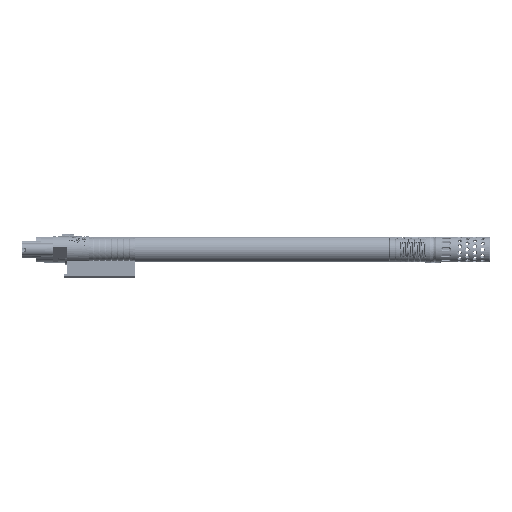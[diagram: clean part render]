
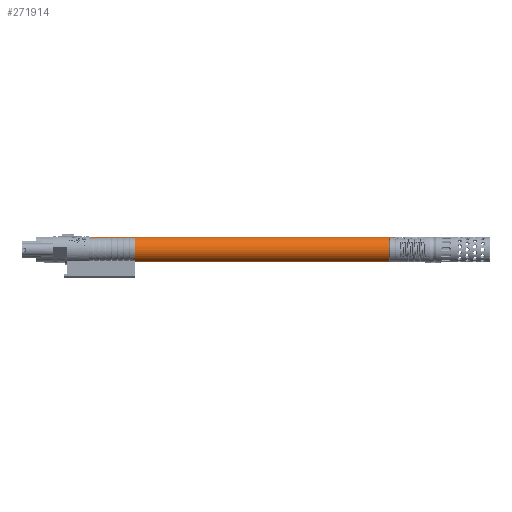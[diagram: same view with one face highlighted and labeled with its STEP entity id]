
A CAD part, left-side view. The second image highlights one B-rep face of the part: STEP entity #271914.
In plain terms, the highlighted cylindrical face has radius 12.5 mm (diameter 25 mm), a full revolution.
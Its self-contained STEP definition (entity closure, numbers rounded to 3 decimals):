
#28093=FACE_OUTER_BOUND('',#43725,.T.);
#43725=EDGE_LOOP('',(#251330,#251331,#251332,#251333));
#46374=CIRCLE('',#277975,12.5);
#46375=CIRCLE('',#277976,12.5);
#85859=LINE('',#860061,#100910);
#100910=VECTOR('',#302674,12.5);
#128238=VERTEX_POINT('',#860058);
#128239=VERTEX_POINT('',#860060);
#169532=EDGE_CURVE('',#128238,#128238,#46374,.T.);
#169533=EDGE_CURVE('',#128238,#128239,#85859,.T.);
#169534=EDGE_CURVE('',#128239,#128239,#46375,.F.);
#251330=ORIENTED_EDGE('',*,*,#169532,.F.);
#251331=ORIENTED_EDGE('',*,*,#169533,.T.);
#251332=ORIENTED_EDGE('',*,*,#169534,.F.);
#251333=ORIENTED_EDGE('',*,*,#169533,.F.);
#257967=CYLINDRICAL_SURFACE('',#277974,12.5);
#271914=ADVANCED_FACE('',(#28093),#257967,.T.);
#277974=AXIS2_PLACEMENT_3D('',#860057,#302670,#302671);
#277975=AXIS2_PLACEMENT_3D('',#860059,#302672,#302673);
#277976=AXIS2_PLACEMENT_3D('',#860062,#302675,#302676);
#302670=DIRECTION('center_axis',(0.,-1.,0.));
#302671=DIRECTION('ref_axis',(1.,0.,0.));
#302672=DIRECTION('center_axis',(0.,-1.,0.));
#302673=DIRECTION('ref_axis',(1.,0.,0.));
#302674=DIRECTION('',(0.,1.,0.));
#302675=DIRECTION('center_axis',(0.,-1.,0.));
#302676=DIRECTION('ref_axis',(1.,0.,0.));
#860057=CARTESIAN_POINT('Origin',(55.074,367.904,1.181));
#860058=CARTESIAN_POINT('',(42.574,-300.,1.181));
#860059=CARTESIAN_POINT('Origin',(55.074,-300.,1.181));
#860060=CARTESIAN_POINT('',(42.574,0.,1.181));
#860061=CARTESIAN_POINT('',(42.574,367.904,1.181));
#860062=CARTESIAN_POINT('Origin',(55.074,0.,1.181));
